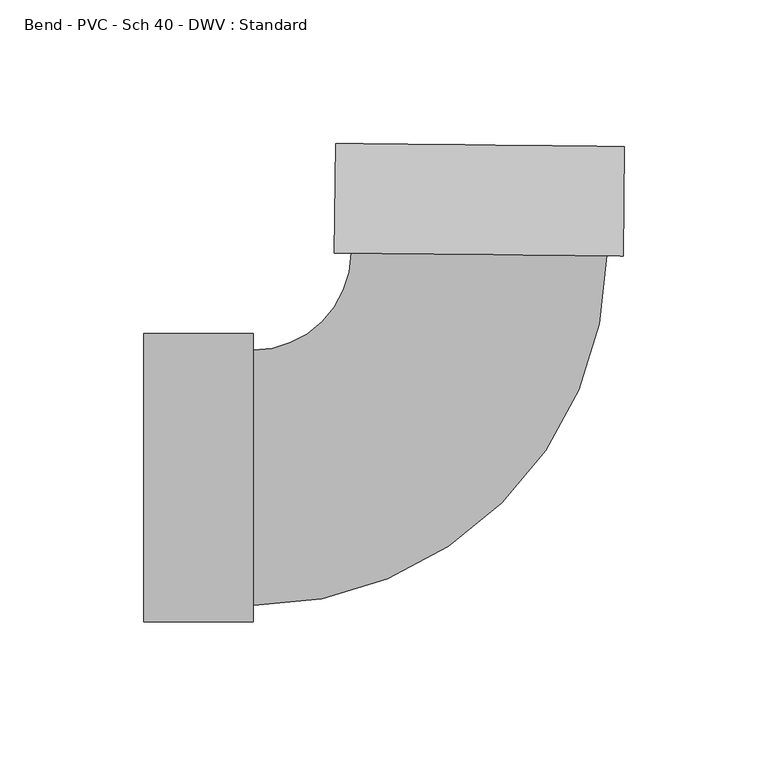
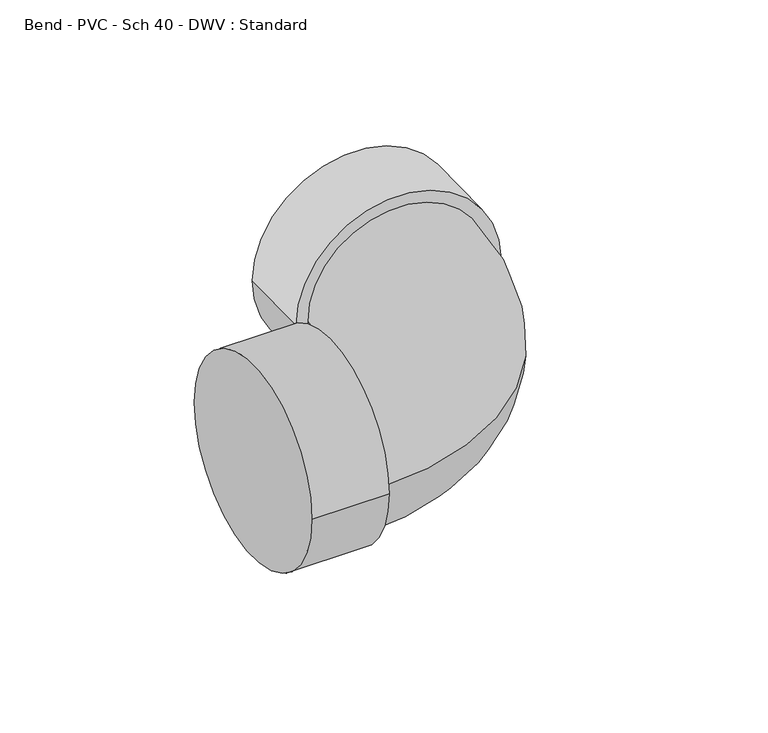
"""IFC4 building model written with IfcOpenShell, lengths in millimetres: pipe fitting geometry, Bend - PVC - Sch 40 - DWV : Standard."""

from ifc_helpers import new_model, si_unit, point, frame, origin, place, context, project, spatial, circle_curve, ellipse_curve, trimmed, source, transform, mapped, element, save
from ifc_brep_helpers import plane_surface, cylinder_surface, revolved_surface, advanced_brep


def bend_pvc_sch_40_dwv_standard_9345205b(model_context):
    return source(origin(), model_context, "Body", "AdvancedBrep", [
        advanced_brep(
        [(-115.9002, -50.2666, 0.0), (-115.9002, 50.2666, 0.0), (-77.8002, -50.2666, 0.0), (-77.8002, 50.2666, 0.0), (-77.8002, -44.45, 0.0), (-77.8002, 44.45, 0.0), (-43.6372138, 78.2589751, 0.0), (45.2579634, 77.3329837, 0.0), (51.0742479, 77.2723974, 0.0), (-49.4534983, 78.3195614, 0.0), (51.4711013, 115.3703305, 0.0), (-49.0566448, 116.4174945, 0.0)],
        [
            (0, 1, circle_curve(frame((-115.9002, 0.0, 0.0), z_axis=(-1.0, 0.0, 0.0), x_axis=(0.0, 1.0, 0.0)), 50.2666)),
            (1, 0, circle_curve(frame((-115.9002, 0.0, 0.0), z_axis=(-1.0, 0.0, 0.0), x_axis=(0.0, 1.0, 0.0)), 50.2666)),
            (2, 3, circle_curve(frame((-77.8002, 0.0, 0.0), z_axis=(1.0, 0.0, 0.0), x_axis=(0.0, 1.0, 0.0)), 50.2666)),
            (3, 2, circle_curve(frame((-77.8002, 0.0, 0.0), z_axis=(1.0, 0.0, 0.0), x_axis=(0.0, 1.0, 0.0)), 50.2666)),
            (4, 5, circle_curve(frame((-77.8002, 0.0, 0.0), z_axis=(-1.0, 0.0, 0.0), x_axis=(0.0, 1.0, 0.0)), 44.45)),
            (5, 4, circle_curve(frame((-77.8002, 0.0, 0.0), z_axis=(-1.0, 0.0, 0.0), x_axis=(0.0, 1.0, 0.0)), 44.45)),
            (0, 2),
            (3, 1),
            (6, 5, circle_curve(frame((-77.8002, 78.6148396, 0.0), z_axis=(0.0, 0.0, -1.0), x_axis=(0.0, -1.0, 0.0)), 34.1648396)),
            (4, 7, circle_curve(frame((-77.8002, 78.6148396, 0.0), z_axis=(0.0, 0.0, 1.0), x_axis=(0.0, -1.0, 0.0)), 123.0648396)),
            (7, 6, circle_curve(frame((0.8103748, 77.7959794, 0.0), z_axis=(-0.010416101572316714, -0.9999457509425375, 0.0), x_axis=(-0.9999457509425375, 0.010416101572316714, 0.0)), 44.45)),
            (6, 7, circle_curve(frame((0.8103748, 77.7959794, 0.0), z_axis=(-0.010416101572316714, -0.9999457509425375, 0.0), x_axis=(-0.9999457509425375, 0.010416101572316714, 0.0)), 44.45)),
            (8, 9, circle_curve(frame((0.8103748, 77.7959794, 0.0), z_axis=(-0.010416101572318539, -0.9999457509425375, 0.0), x_axis=(-0.9999457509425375, 0.010416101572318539, 0.0)), 50.2666)),
            (9, 8, circle_curve(frame((0.8103748, 77.7959794, 0.0), z_axis=(-0.010416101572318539, -0.9999457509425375, 0.0), x_axis=(-0.9999457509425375, 0.010416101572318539, 0.0)), 50.2666)),
            (10, 11, circle_curve(frame((1.2072283, 115.8939125, 0.0), z_axis=(0.010416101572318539, 0.9999457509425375, 0.0), x_axis=(-0.9999457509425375, 0.010416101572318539, 0.0)), 50.2666)),
            (11, 10, circle_curve(frame((1.2072283, 115.8939125, 0.0), z_axis=(0.010416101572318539, 0.9999457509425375, 0.0), x_axis=(-0.9999457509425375, 0.010416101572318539, 0.0)), 50.2666)),
            (8, 10),
            (11, 9),
        ],
        [
            plane_surface(frame((-115.9002, 0.0, 0.0), z_axis=(-1.0, 0.0, 0.0), x_axis=(0.0, 0.0, 1.0))),
            plane_surface(frame((-77.8002, 0.0, 0.0), z_axis=(1.0, 0.0, 0.0), x_axis=(0.0, 0.0, 1.0))),
            cylinder_surface(frame((-115.9002, 0.0, 0.0), z_axis=(-1.0, 0.0, 0.0), x_axis=(0.0, 1.0, 0.0)), 50.2666),
            revolved_surface(trimmed(ellipse_curve(frame((-77.8002, 0.0, 0.0), z_axis=(-1.0, 0.0, 0.0), x_axis=(0.0, 1.0, 0.0)), 44.45, 44.45), [point((-77.8002, -44.45, 0.0))], [point((-77.8002, 44.45, 0.0))], True, "CARTESIAN"), (-77.8002, 78.6148396, 0.0), (0.0, 0.0, 1.0)),
            revolved_surface(trimmed(ellipse_curve(frame((-77.8002, 0.0, 0.0), z_axis=(-1.0, 0.0, 0.0), x_axis=(0.0, 1.0, 0.0)), 44.45, 44.45), [point((-77.8002, 44.45, 0.0))], [point((-77.8002, -44.45, 0.0))], True, "CARTESIAN"), (-77.8002, 78.6148396, 0.0), (0.0, 0.0, 1.0)),
            plane_surface(frame((0.8103748, 77.7959794, 0.0), z_axis=(-0.010416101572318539, -0.9999457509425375, 0.0), x_axis=(0.0, 0.0, 1.0))),
            plane_surface(frame((1.2072283, 115.8939125, 0.0), z_axis=(0.010416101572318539, 0.9999457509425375, 0.0), x_axis=(0.0, 0.0, 1.0))),
            cylinder_surface(frame((0.8103748, 77.7959794, 0.0), z_axis=(-0.010416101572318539, -0.9999457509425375, 0.0), x_axis=(-0.9999457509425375, 0.010416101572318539, 0.0)), 50.2666),
        ],
        [
            (0, [[1, 2]]),
            (1, [[3, 4], [5, 6]]),
            (2, [[-1, 7, -4, 8]]),
            (2, [[-2, -8, -3, -7]]),
            (3, [[9, -5, 10, 11]]),
            (4, [[-9, 12, -10, -6]]),
            (5, [[13, 14], [-11, -12]]),
            (6, [[15, 16]]),
            (7, [[-13, 17, -16, 18]]),
            (7, [[-14, -18, -15, -17]]),
        ],
    ),
    ])


if __name__ == "__main__":
    model = new_model("IFC4")
    model_context = context("Model", 3, world=origin())
    ifc_project = project(units=[si_unit("LENGTHUNIT", "METRE", prefix="MILLI")], contexts=[model_context])
    site = spatial("IfcSite", under=ifc_project)
    building = spatial("IfcBuilding", under=site)
    placement = place(None, origin())
    bend_pvc_sch_40_dwv_standard_shape = bend_pvc_sch_40_dwv_standard_9345205b(model_context)
    element("IfcPipeFitting", 1, ObjectType="Bend - PVC - Sch 40 - DWV : Standard", at=placement, inside=building, context=model_context, shape_type="MappedRepresentation", body=[
        mapped(bend_pvc_sch_40_dwv_standard_shape, transform((0.0, 0.0, 0.0), x_axis=(1.0, 0.0, 0.0), y_axis=(0.0, 1.0, 0.0), z_axis=(0.0, 0.0, 1.0))),
    ])
    save(model, "model.ifc")
